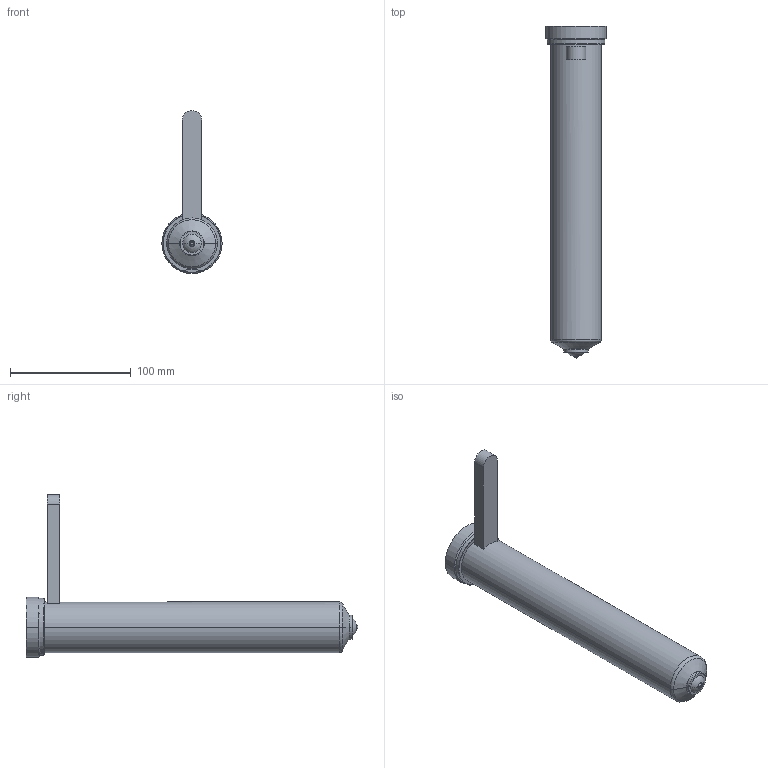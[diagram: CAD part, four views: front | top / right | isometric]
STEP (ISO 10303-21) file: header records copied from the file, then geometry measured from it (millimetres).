
FILE_DESCRIPTION((''),'2;1');
FILE_NAME('EO16_PG-BL_STD_260_COT','2024-02-19T11:17:53',('sundharh'),(''),'CREO PARAMETRIC BY PTC INC, 2023154','CREO PARAMETRIC BY PTC INC, 2023154','');
FILE_SCHEMA(('CONFIG_CONTROL_DESIGN'));
Length unit declared in the file: millimetre
Products named in the file (1): EO16_PG-BL_STD_260_COT
Bounding box: 50 x 275 x 135 mm (x, y, z)
Volume: 390891.2 mm3; surface area: 43620.7 mm2
Topology: 1 solids, 1 shells, 40 faces, 85 edges, 50 vertices
Faces by surface type: cylinder 13, plane 10, torus 9, cone 6, sphere 2
Entity records: 1201 total; most frequent: CARTESIAN_POINT 271, DIRECTION 209, ORIENTED_EDGE 170, AXIS2_PLACEMENT_3D 90, EDGE_CURVE 85, VERTEX_POINT 50, CIRCLE 50, EDGE_LOOP 43
